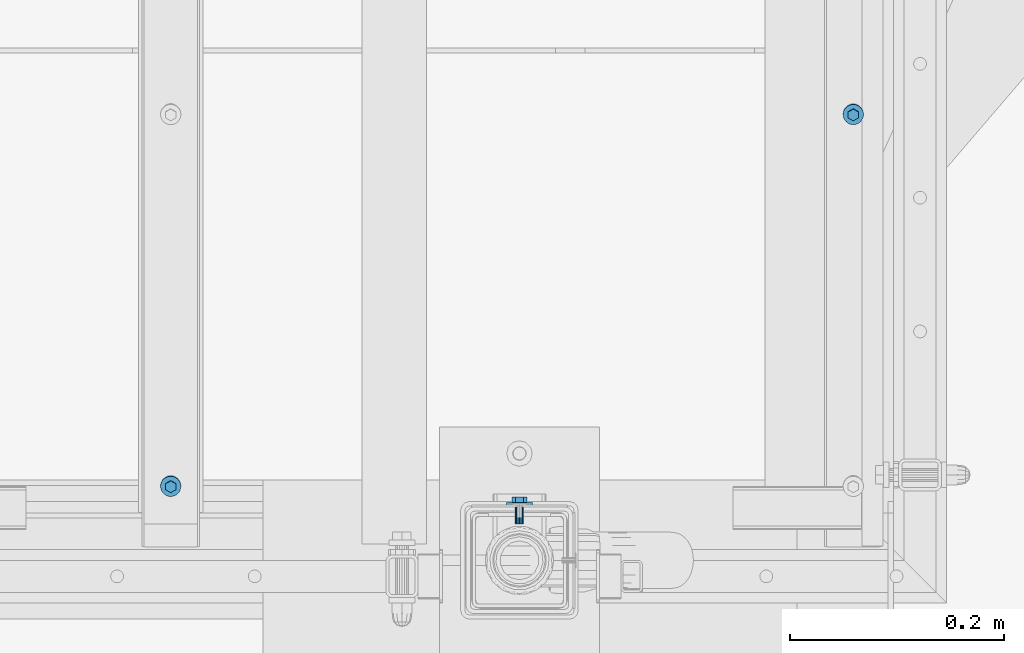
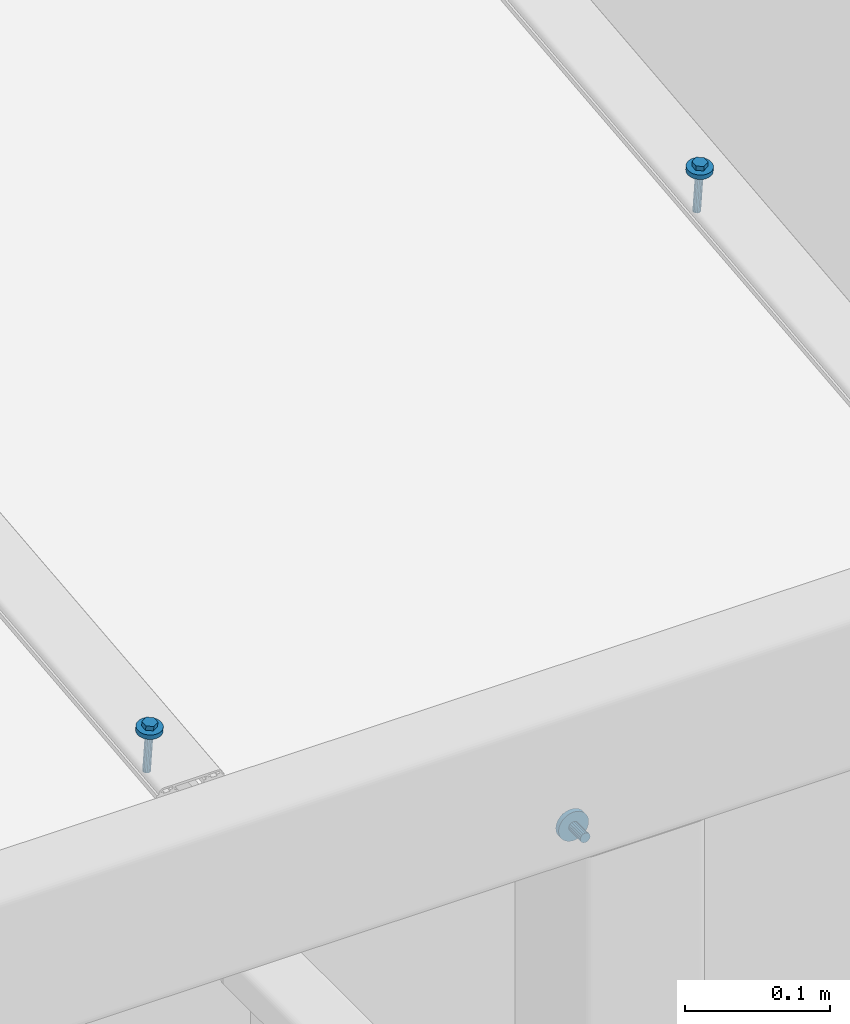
# One storey, part 72 of 162: 3 mechanical fasteners.
"""IFC2X3 building model written with IfcOpenShell, lengths in millimetres."""

from ifc_helpers import new_model, entity, si_unit, converted_unit, origin_with_axes, place, context, project, spatial, faceted_brep, element, save


model = new_model("IFC2X3")

# Units and contexts
model_context = context("Model", 3, precision=1e-09, world=origin_with_axes())
ifc_project = project(units=[si_unit("LENGTHUNIT", "METRE", prefix="MILLI"), si_unit("AREAUNIT", "SQUARE_METRE"), si_unit("VOLUMEUNIT", "CUBIC_METRE"), converted_unit("PLANEANGLEUNIT", "DEGREE", entity("IfcPlaneAngleMeasure", 0.01745329), si_unit("PLANEANGLEUNIT", "RADIAN"), dimensions=[0, 0, 0, 0, 0, 0, 0])], contexts=[model_context])

# Site, building, storey
site_placement = place(None, origin_with_axes())
site = spatial("IfcSite", under=ifc_project, at=site_placement, Name="Hermannstra?e 1a, 60318 Frankfurt", CompositionType="ELEMENT")
building_placement = place(site_placement, origin_with_axes())
building = spatial("IfcBuilding", under=site, at=building_placement, Name="Struktur 1", CompositionType="ELEMENT")
storey_placement = place(building_placement, origin_with_axes())
storey = spatial("IfcBuildingStorey", under=building, at=storey_placement, Name="Default Storey", CompositionType="ELEMENT", Elevation=0.0)

# Mechanical fasteners
mechanical_fastener_1_placement = place(None, origin_with_axes())
element("IfcMechanicalFastener", 1, at=mechanical_fastener_1_placement, inside=storey, ObjectType="-", NominalDiameter=6.0, NominalLength=40.0, context=model_context, shape_type="Brep", body=[
    faceted_brep([(5776.309364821, 1947.952940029, 17450.481034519), (5776.309364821, 1948.371053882, 17446.502946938), (5776.491904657, 1946.527848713, 17446.309218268), (5776.491904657, 1946.109734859, 17450.28730585), (5777.032509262, 1944.755476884, 17446.122934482), (5777.032509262, 1944.337363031, 17450.101022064), (5777.910403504, 1943.122049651, 17445.951254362), (5777.910403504, 1942.703935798, 17449.929341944), (5779.0918504, 1941.690338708, 17445.800775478), (5779.0918504, 1941.272224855, 17449.77886306), (5780.531447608, 1940.515363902, 17445.67728065), (5780.531447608, 1940.097250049, 17449.655368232), (5782.173872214, 1939.642278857, 17445.585515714), (5782.173872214, 1939.224165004, 17449.563603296), (5783.956006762, 1939.10463574, 17445.529007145), (5783.956006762, 1938.686521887, 17449.507094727), (5785.809364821, 1938.923095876, 17445.509926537), (5785.809364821, 1938.504982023, 17449.488014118), (5787.66272288, 1939.10463574, 17445.529007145), (5787.66272288, 1938.686521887, 17449.507094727), (5789.444857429, 1939.642278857, 17445.585515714), (5789.444857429, 1939.224165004, 17449.563603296), (5791.087282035, 1940.515363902, 17445.67728065), (5791.087282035, 1940.097250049, 17449.655368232), (5792.526879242, 1941.690338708, 17445.800775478), (5792.526879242, 1941.272224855, 17449.77886306), (5793.708326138, 1943.122049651, 17445.951254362), (5793.708326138, 1942.703935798, 17449.929341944), (5794.58622038, 1944.755476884, 17446.122934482), (5794.58622038, 1944.337363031, 17450.101022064), (5795.126824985, 1946.527848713, 17446.309218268), (5795.126824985, 1946.109734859, 17450.28730585), (5795.309364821, 1948.371053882, 17446.502946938), (5795.309364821, 1947.952940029, 17450.481034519), (5795.126824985, 1950.214259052, 17446.696675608), (5795.126824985, 1949.796145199, 17450.674763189), (5794.58622038, 1951.986630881, 17446.882959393), (5794.58622038, 1951.568517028, 17450.861046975), (5793.708326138, 1953.620058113, 17447.054639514), (5793.708326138, 1953.20194426, 17451.032727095), (5792.526879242, 1955.051769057, 17447.205118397), (5792.526879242, 1954.633655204, 17451.183205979), (5791.087282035, 1956.226743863, 17447.328613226), (5791.087282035, 1955.80863001, 17451.306700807), (5789.444857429, 1957.099828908, 17447.420378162), (5789.444857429, 1956.681715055, 17451.398465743), (5787.66272288, 1957.637472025, 17447.47688673), (5787.66272288, 1957.219358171, 17451.454974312), (5785.809364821, 1957.819011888, 17447.495967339), (5785.809364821, 1957.400898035, 17451.47405492), (5783.956006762, 1957.637472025, 17447.47688673), (5783.956006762, 1957.219358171, 17451.454974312), (5782.173872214, 1957.099828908, 17447.420378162), (5782.173872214, 1956.681715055, 17451.398465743), (5780.531447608, 1956.226743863, 17447.328613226), (5780.531447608, 1955.80863001, 17451.306700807), (5779.0918504, 1955.051769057, 17447.205118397), (5779.0918504, 1954.633655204, 17451.183205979), (5777.910403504, 1953.620058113, 17447.054639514), (5777.910403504, 1953.20194426, 17451.032727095), (5777.032509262, 1951.986630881, 17446.882959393), (5777.032509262, 1951.568517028, 17450.861046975), (5776.491904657, 1950.214259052, 17446.696675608), (5776.491904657, 1949.796145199, 17450.674763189)], [[[0, 1, 2, 3]], [[3, 2, 4, 5]], [[5, 4, 6, 7]], [[7, 6, 8, 9]], [[9, 8, 10, 11]], [[11, 10, 12, 13]], [[13, 12, 14, 15]], [[15, 14, 16, 17]], [[17, 16, 18, 19]], [[19, 18, 20, 21]], [[21, 20, 22, 23]], [[23, 22, 24, 25]], [[25, 24, 26, 27]], [[27, 26, 28, 29]], [[29, 28, 30, 31]], [[31, 30, 32, 33]], [[33, 32, 34, 35]], [[35, 34, 36, 37]], [[37, 36, 38, 39]], [[39, 38, 40, 41]], [[41, 40, 42, 43]], [[43, 42, 44, 45]], [[45, 44, 46, 47]], [[47, 46, 48, 49]], [[49, 48, 50, 51]], [[51, 50, 52, 53]], [[53, 52, 54, 55]], [[55, 54, 56, 57]], [[57, 56, 58, 59]], [[59, 58, 60, 61]], [[61, 60, 62, 63]], [[63, 62, 1, 0]], [[0, 3, 5, 7, 9, 11, 13, 15, 17, 19, 21, 23, 25, 27, 29, 31, 33, 35, 37, 39, 41, 43, 45, 47, 49, 51, 53, 55, 57, 59, 61, 63]], [[1, 62, 60, 58, 56, 54, 52, 50, 48, 46, 44, 42, 40, 38, 36, 34, 32, 30, 28, 26, 24, 22, 20, 18, 16, 14, 12, 10, 8, 6, 4, 2]]]),
    faceted_brep([(5790.594155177, 1945.205573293, 17450.19227464), (5790.594155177, 1944.78745944, 17454.170362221), (5785.809364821, 1942.040092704, 17453.881602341), (5785.809364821, 1942.458206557, 17449.90351476), (5781.024574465, 1944.78745944, 17454.170362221), (5781.024574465, 1945.205573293, 17450.19227464), (5781.024574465, 1950.282192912, 17454.747881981), (5781.024574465, 1950.700306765, 17450.769794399), (5785.809364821, 1953.029559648, 17455.03664186), (5785.809364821, 1953.447673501, 17451.058554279), (5790.594155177, 1950.282192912, 17454.747881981), (5790.594155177, 1950.700306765, 17450.769794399)], [[[0, 1, 2, 3]], [[3, 2, 4, 5]], [[5, 4, 6, 7]], [[7, 6, 8, 9]], [[9, 8, 10, 11]], [[11, 10, 1, 0]], [[4, 2, 1, 10, 8, 6]], [[0, 3, 5, 7, 9, 11]]]),
    faceted_brep([(5782.809364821, 1948.371053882, 17446.502946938), (5782.809364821, 1951.715964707, 17414.678246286), (5783.037726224, 1950.574203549, 17414.558242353), (5783.037726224, 1947.229292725, 17446.382943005), (5783.688044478, 1949.606265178, 17414.456507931), (5783.688044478, 1946.261354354, 17446.281208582), (5784.661314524, 1948.959509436, 17414.388531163), (5784.661314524, 1945.614598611, 17446.213231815), (5785.809364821, 1948.732399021, 17414.364660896), (5785.809364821, 1945.387488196, 17446.189361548), (5786.957415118, 1948.959509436, 17414.388531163), (5786.957415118, 1945.614598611, 17446.213231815), (5787.930685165, 1949.606265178, 17414.456507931), (5787.930685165, 1946.261354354, 17446.281208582), (5788.581003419, 1950.574203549, 17414.558242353), (5788.581003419, 1947.229292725, 17446.382943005), (5788.809364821, 1951.715964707, 17414.678246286), (5788.809364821, 1948.371053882, 17446.502946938), (5788.581003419, 1952.857725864, 17414.798250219), (5788.581003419, 1949.51281504, 17446.622950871), (5787.930685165, 1953.825664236, 17414.899984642), (5787.930685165, 1950.480753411, 17446.724685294), (5786.957415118, 1954.472419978, 17414.967961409), (5786.957415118, 1951.127509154, 17446.792662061), (5785.809364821, 1954.699530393, 17414.991831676), (5785.809364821, 1951.354619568, 17446.816532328), (5784.661314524, 1954.472419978, 17414.967961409), (5784.661314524, 1951.127509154, 17446.792662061), (5783.688044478, 1953.825664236, 17414.899984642), (5783.688044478, 1950.480753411, 17446.724685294), (5783.037726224, 1952.857725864, 17414.798250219), (5783.037726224, 1949.51281504, 17446.622950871)], [[[0, 1, 2, 3]], [[3, 2, 4, 5]], [[5, 4, 6, 7]], [[7, 6, 8, 9]], [[9, 8, 10, 11]], [[11, 10, 12, 13]], [[13, 12, 14, 15]], [[15, 14, 16, 17]], [[17, 16, 18, 19]], [[19, 18, 20, 21]], [[21, 20, 22, 23]], [[23, 22, 24, 25]], [[25, 24, 26, 27]], [[27, 26, 28, 29]], [[29, 28, 30, 31]], [[31, 30, 1, 0]], [[0, 3, 5, 7, 9, 11, 13, 15, 17, 19, 21, 23, 25, 27, 29, 31]], [[1, 30, 28, 26, 24, 22, 20, 18, 16, 14, 12, 10, 8, 6, 4, 2]]]),
    faceted_brep([(5782.809364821, 1951.715964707, 17414.678246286), (5782.809364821, 1952.13407856, 17410.700158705), (5783.037726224, 1950.992317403, 17410.580154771), (5783.037726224, 1950.574203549, 17414.558242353), (5783.688044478, 1950.024379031, 17410.478420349), (5783.688044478, 1949.606265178, 17414.456507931), (5784.661314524, 1949.377623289, 17410.410443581), (5784.661314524, 1948.959509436, 17414.388531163), (5785.809364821, 1949.150512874, 17410.386573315), (5785.809364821, 1948.732399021, 17414.364660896), (5786.957415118, 1949.377623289, 17410.410443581), (5786.957415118, 1948.959509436, 17414.388531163), (5787.930685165, 1950.024379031, 17410.478420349), (5787.930685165, 1949.606265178, 17414.456507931), (5788.581003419, 1950.992317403, 17410.580154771), (5788.581003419, 1950.574203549, 17414.558242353), (5788.809364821, 1952.13407856, 17410.700158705), (5788.809364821, 1951.715964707, 17414.678246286), (5788.581003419, 1953.275839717, 17410.820162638), (5788.581003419, 1952.857725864, 17414.798250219), (5787.930685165, 1954.243778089, 17410.92189706), (5787.930685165, 1953.825664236, 17414.899984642), (5786.957415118, 1954.890533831, 17410.989873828), (5786.957415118, 1954.472419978, 17414.967961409), (5785.809364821, 1955.117644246, 17411.013744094), (5785.809364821, 1954.699530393, 17414.991831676), (5784.661314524, 1954.890533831, 17410.989873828), (5784.661314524, 1954.472419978, 17414.967961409), (5783.688044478, 1954.243778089, 17410.92189706), (5783.688044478, 1953.825664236, 17414.899984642), (5783.037726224, 1953.275839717, 17410.820162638), (5783.037726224, 1952.857725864, 17414.798250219)], [[[0, 1, 2, 3]], [[3, 2, 4, 5]], [[5, 4, 6, 7]], [[7, 6, 8, 9]], [[9, 8, 10, 11]], [[11, 10, 12, 13]], [[13, 12, 14, 15]], [[15, 14, 16, 17]], [[17, 16, 18, 19]], [[19, 18, 20, 21]], [[21, 20, 22, 23]], [[23, 22, 24, 25]], [[25, 24, 26, 27]], [[27, 26, 28, 29]], [[29, 28, 30, 31]], [[31, 30, 1, 0]], [[0, 3, 5, 7, 9, 11, 13, 15, 17, 19, 21, 23, 25, 27, 29, 31]], [[1, 30, 28, 26, 24, 22, 20, 18, 16, 14, 12, 10, 8, 6, 4, 2]]]),
])
mechanical_fastener_2_placement = place(None, origin_with_axes())
element("IfcMechanicalFastener", 2, at=mechanical_fastener_2_placement, inside=storey, ObjectType="-", NominalDiameter=8.0, NominalLength=20.0, context=model_context, shape_type="Brep", body=[
    faceted_brep([(5473.30936482, 1582.609373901, 17215.0), (5473.30936482, 1580.609373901, 17215.0), (5470.968280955, 1580.609373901, 17215.230576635), (5470.968280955, 1582.609373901, 17215.230576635), (5468.717163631, 1580.609373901, 17215.91344561), (5468.717163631, 1582.609373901, 17215.91344561), (5466.642522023, 1580.609373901, 17217.022364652), (5466.642522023, 1582.609373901, 17217.022364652), (5464.824083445, 1580.609373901, 17218.514718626), (5464.824083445, 1582.609373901, 17218.514718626), (5463.331729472, 1580.609373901, 17220.333157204), (5463.331729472, 1582.609373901, 17220.333157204), (5462.222810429, 1580.609373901, 17222.407798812), (5462.222810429, 1582.609373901, 17222.407798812), (5461.539941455, 1580.609373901, 17224.658916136), (5461.539941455, 1582.609373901, 17224.658916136), (5461.30936482, 1580.609373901, 17227.0), (5461.30936482, 1582.609373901, 17227.0), (5461.539941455, 1580.609373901, 17229.341083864), (5461.539941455, 1582.609373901, 17229.341083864), (5462.222810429, 1580.609373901, 17231.592201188), (5462.222810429, 1582.609373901, 17231.592201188), (5463.331729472, 1580.609373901, 17233.666842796), (5463.331729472, 1582.609373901, 17233.666842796), (5464.824083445, 1580.609373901, 17235.485281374), (5464.824083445, 1582.609373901, 17235.485281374), (5466.642522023, 1580.609373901, 17236.977635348), (5466.642522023, 1582.609373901, 17236.977635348), (5468.717163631, 1580.609373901, 17238.08655439), (5468.717163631, 1582.609373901, 17238.08655439), (5470.968280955, 1580.609373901, 17238.769423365), (5470.968280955, 1582.609373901, 17238.769423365), (5473.30936482, 1580.609373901, 17239.0), (5473.30936482, 1582.609373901, 17239.0), (5475.650448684, 1580.609373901, 17238.769423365), (5475.650448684, 1582.609373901, 17238.769423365), (5477.901566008, 1580.609373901, 17238.08655439), (5477.901566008, 1582.609373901, 17238.08655439), (5479.976207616, 1580.609373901, 17236.977635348), (5479.976207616, 1582.609373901, 17236.977635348), (5481.794646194, 1580.609373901, 17235.485281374), (5481.794646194, 1582.609373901, 17235.485281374), (5483.287000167, 1580.609373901, 17233.666842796), (5483.287000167, 1582.609373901, 17233.666842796), (5484.39591921, 1580.609373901, 17231.592201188), (5484.39591921, 1582.609373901, 17231.592201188), (5485.078788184, 1580.609373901, 17229.341083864), (5485.078788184, 1582.609373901, 17229.341083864), (5485.30936482, 1580.609373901, 17227.0), (5485.30936482, 1582.609373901, 17227.0), (5485.078788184, 1580.609373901, 17224.658916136), (5485.078788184, 1582.609373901, 17224.658916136), (5484.39591921, 1580.609373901, 17222.407798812), (5484.39591921, 1582.609373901, 17222.407798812), (5483.287000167, 1580.609373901, 17220.333157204), (5483.287000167, 1582.609373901, 17220.333157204), (5481.794646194, 1580.609373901, 17218.514718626), (5481.794646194, 1582.609373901, 17218.514718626), (5479.976207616, 1580.609373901, 17217.022364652), (5479.976207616, 1582.609373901, 17217.022364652), (5477.901566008, 1580.609373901, 17215.91344561), (5477.901566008, 1582.609373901, 17215.91344561), (5475.650448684, 1580.609373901, 17215.230576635), (5475.650448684, 1582.609373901, 17215.230576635)], [[[0, 1, 2, 3]], [[3, 2, 4, 5]], [[5, 4, 6, 7]], [[7, 6, 8, 9]], [[9, 8, 10, 11]], [[11, 10, 12, 13]], [[13, 12, 14, 15]], [[15, 14, 16, 17]], [[17, 16, 18, 19]], [[19, 18, 20, 21]], [[21, 20, 22, 23]], [[23, 22, 24, 25]], [[25, 24, 26, 27]], [[27, 26, 28, 29]], [[29, 28, 30, 31]], [[31, 30, 32, 33]], [[33, 32, 34, 35]], [[35, 34, 36, 37]], [[37, 36, 38, 39]], [[39, 38, 40, 41]], [[41, 40, 42, 43]], [[43, 42, 44, 45]], [[45, 44, 46, 47]], [[47, 46, 48, 49]], [[49, 48, 50, 51]], [[51, 50, 52, 53]], [[53, 52, 54, 55]], [[55, 54, 56, 57]], [[57, 56, 58, 59]], [[59, 58, 60, 61]], [[61, 60, 62, 63]], [[63, 62, 1, 0]], [[0, 3, 5, 7, 9, 11, 13, 15, 17, 19, 21, 23, 25, 27, 29, 31, 33, 35, 37, 39, 41, 43, 45, 47, 49, 51, 53, 55, 57, 59, 61, 63]], [[1, 62, 60, 58, 56, 54, 52, 50, 48, 46, 44, 42, 40, 38, 36, 34, 32, 30, 28, 26, 24, 22, 20, 18, 16, 14, 12, 10, 8, 6, 4, 2]]]),
    faceted_brep([(5473.30936482, 1584.609373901, 17215.0), (5473.30936482, 1582.609373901, 17215.0), (5470.968280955, 1582.609373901, 17215.230576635), (5470.968280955, 1584.609373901, 17215.230576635), (5468.717163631, 1582.609373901, 17215.91344561), (5468.717163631, 1584.609373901, 17215.91344561), (5466.642522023, 1582.609373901, 17217.022364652), (5466.642522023, 1584.609373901, 17217.022364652), (5464.824083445, 1582.609373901, 17218.514718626), (5464.824083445, 1584.609373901, 17218.514718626), (5463.331729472, 1582.609373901, 17220.333157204), (5463.331729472, 1584.609373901, 17220.333157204), (5462.222810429, 1582.609373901, 17222.407798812), (5462.222810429, 1584.609373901, 17222.407798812), (5461.539941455, 1582.609373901, 17224.658916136), (5461.539941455, 1584.609373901, 17224.658916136), (5461.30936482, 1582.609373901, 17227.0), (5461.30936482, 1584.609373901, 17227.0), (5461.539941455, 1582.609373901, 17229.341083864), (5461.539941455, 1584.609373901, 17229.341083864), (5462.222810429, 1582.609373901, 17231.592201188), (5462.222810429, 1584.609373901, 17231.592201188), (5463.331729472, 1582.609373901, 17233.666842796), (5463.331729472, 1584.609373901, 17233.666842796), (5464.824083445, 1582.609373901, 17235.485281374), (5464.824083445, 1584.609373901, 17235.485281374), (5466.642522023, 1582.609373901, 17236.977635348), (5466.642522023, 1584.609373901, 17236.977635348), (5468.717163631, 1582.609373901, 17238.08655439), (5468.717163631, 1584.609373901, 17238.08655439), (5470.968280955, 1582.609373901, 17238.769423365), (5470.968280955, 1584.609373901, 17238.769423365), (5473.30936482, 1582.609373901, 17239.0), (5473.30936482, 1584.609373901, 17239.0), (5475.650448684, 1582.609373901, 17238.769423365), (5475.650448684, 1584.609373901, 17238.769423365), (5477.901566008, 1582.609373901, 17238.08655439), (5477.901566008, 1584.609373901, 17238.08655439), (5479.976207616, 1582.609373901, 17236.977635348), (5479.976207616, 1584.609373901, 17236.977635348), (5481.794646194, 1582.609373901, 17235.485281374), (5481.794646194, 1584.609373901, 17235.485281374), (5483.287000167, 1582.609373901, 17233.666842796), (5483.287000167, 1584.609373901, 17233.666842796), (5484.39591921, 1582.609373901, 17231.592201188), (5484.39591921, 1584.609373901, 17231.592201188), (5485.078788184, 1582.609373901, 17229.341083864), (5485.078788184, 1584.609373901, 17229.341083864), (5485.30936482, 1582.609373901, 17227.0), (5485.30936482, 1584.609373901, 17227.0), (5485.078788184, 1582.609373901, 17224.658916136), (5485.078788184, 1584.609373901, 17224.658916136), (5484.39591921, 1582.609373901, 17222.407798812), (5484.39591921, 1584.609373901, 17222.407798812), (5483.287000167, 1582.609373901, 17220.333157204), (5483.287000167, 1584.609373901, 17220.333157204), (5481.794646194, 1582.609373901, 17218.514718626), (5481.794646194, 1584.609373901, 17218.514718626), (5479.976207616, 1582.609373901, 17217.022364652), (5479.976207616, 1584.609373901, 17217.022364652), (5477.901566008, 1582.609373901, 17215.91344561), (5477.901566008, 1584.609373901, 17215.91344561), (5475.650448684, 1582.609373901, 17215.230576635), (5475.650448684, 1584.609373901, 17215.230576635)], [[[0, 1, 2, 3]], [[3, 2, 4, 5]], [[5, 4, 6, 7]], [[7, 6, 8, 9]], [[9, 8, 10, 11]], [[11, 10, 12, 13]], [[13, 12, 14, 15]], [[15, 14, 16, 17]], [[17, 16, 18, 19]], [[19, 18, 20, 21]], [[21, 20, 22, 23]], [[23, 22, 24, 25]], [[25, 24, 26, 27]], [[27, 26, 28, 29]], [[29, 28, 30, 31]], [[31, 30, 32, 33]], [[33, 32, 34, 35]], [[35, 34, 36, 37]], [[37, 36, 38, 39]], [[39, 38, 40, 41]], [[41, 40, 42, 43]], [[43, 42, 44, 45]], [[45, 44, 46, 47]], [[47, 46, 48, 49]], [[49, 48, 50, 51]], [[51, 50, 52, 53]], [[53, 52, 54, 55]], [[55, 54, 56, 57]], [[57, 56, 58, 59]], [[59, 58, 60, 61]], [[61, 60, 62, 63]], [[63, 62, 1, 0]], [[0, 3, 5, 7, 9, 11, 13, 15, 17, 19, 21, 23, 25, 27, 29, 31, 33, 35, 37, 39, 41, 43, 45, 47, 49, 51, 53, 55, 57, 59, 61, 63]], [[1, 62, 60, 58, 56, 54, 52, 50, 48, 46, 44, 42, 40, 38, 36, 34, 32, 30, 28, 26, 24, 22, 20, 18, 16, 14, 12, 10, 8, 6, 4, 2]]]),
    faceted_brep([(5469.71436482, 1584.609373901, 17233.226722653), (5469.71436482, 1589.909373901, 17233.226722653), (5466.11936482, 1589.909373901, 17227.0), (5466.11936482, 1584.609373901, 17227.0), (5469.71436482, 1589.909373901, 17220.773277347), (5469.71436482, 1584.609373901, 17220.773277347), (5476.90436482, 1589.909373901, 17220.773277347), (5476.90436482, 1584.609373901, 17220.773277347), (5480.49936482, 1589.909373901, 17227.0), (5480.49936482, 1584.609373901, 17227.0), (5476.90436482, 1589.909373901, 17233.226722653), (5476.90436482, 1584.609373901, 17233.226722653)], [[[0, 1, 2, 3]], [[3, 2, 4, 5]], [[5, 4, 6, 7]], [[7, 6, 8, 9]], [[9, 8, 10, 11]], [[11, 10, 1, 0]], [[4, 2, 1, 10, 8, 6]], [[0, 3, 5, 7, 9, 11]]]),
    faceted_brep([(5473.30936482, 1580.609373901, 17223.0), (5473.30936482, 1572.609373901, 17223.0), (5471.77863109, 1572.609373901, 17223.30448187), (5471.77863109, 1580.609373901, 17223.30448187), (5470.480937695, 1572.609373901, 17224.171572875), (5470.480937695, 1580.609373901, 17224.171572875), (5469.61384669, 1572.609373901, 17225.469266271), (5469.61384669, 1580.609373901, 17225.469266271), (5469.30936482, 1572.609373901, 17227.0), (5469.30936482, 1580.609373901, 17227.0), (5469.61384669, 1572.609373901, 17228.530733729), (5469.61384669, 1580.609373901, 17228.530733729), (5470.480937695, 1572.609373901, 17229.828427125), (5470.480937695, 1580.609373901, 17229.828427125), (5471.77863109, 1572.609373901, 17230.69551813), (5471.77863109, 1580.609373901, 17230.69551813), (5473.30936482, 1572.609373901, 17231.0), (5473.30936482, 1580.609373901, 17231.0), (5474.840098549, 1572.609373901, 17230.69551813), (5474.840098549, 1580.609373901, 17230.69551813), (5476.137791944, 1572.609373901, 17229.828427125), (5476.137791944, 1580.609373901, 17229.828427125), (5477.00488295, 1572.609373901, 17228.530733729), (5477.00488295, 1580.609373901, 17228.530733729), (5477.30936482, 1572.609373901, 17227.0), (5477.30936482, 1580.609373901, 17227.0), (5477.00488295, 1572.609373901, 17225.469266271), (5477.00488295, 1580.609373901, 17225.469266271), (5476.137791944, 1572.609373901, 17224.171572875), (5476.137791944, 1580.609373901, 17224.171572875), (5474.840098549, 1572.609373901, 17223.30448187), (5474.840098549, 1580.609373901, 17223.30448187)], [[[0, 1, 2, 3]], [[3, 2, 4, 5]], [[5, 4, 6, 7]], [[7, 6, 8, 9]], [[9, 8, 10, 11]], [[11, 10, 12, 13]], [[13, 12, 14, 15]], [[15, 14, 16, 17]], [[17, 16, 18, 19]], [[19, 18, 20, 21]], [[21, 20, 22, 23]], [[23, 22, 24, 25]], [[25, 24, 26, 27]], [[27, 26, 28, 29]], [[29, 28, 30, 31]], [[31, 30, 1, 0]], [[0, 3, 5, 7, 9, 11, 13, 15, 17, 19, 21, 23, 25, 27, 29, 31]], [[1, 30, 28, 26, 24, 22, 20, 18, 16, 14, 12, 10, 8, 6, 4, 2]]]),
    faceted_brep([(5473.30936482, 1572.609373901, 17223.0), (5473.30936482, 1564.609373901, 17223.0), (5471.77863109, 1564.609373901, 17223.30448187), (5471.77863109, 1572.609373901, 17223.30448187), (5470.480937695, 1564.609373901, 17224.171572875), (5470.480937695, 1572.609373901, 17224.171572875), (5469.61384669, 1564.609373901, 17225.469266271), (5469.61384669, 1572.609373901, 17225.469266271), (5469.30936482, 1564.609373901, 17227.0), (5469.30936482, 1572.609373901, 17227.0), (5469.61384669, 1564.609373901, 17228.530733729), (5469.61384669, 1572.609373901, 17228.530733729), (5470.480937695, 1564.609373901, 17229.828427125), (5470.480937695, 1572.609373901, 17229.828427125), (5471.77863109, 1564.609373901, 17230.69551813), (5471.77863109, 1572.609373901, 17230.69551813), (5473.30936482, 1564.609373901, 17231.0), (5473.30936482, 1572.609373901, 17231.0), (5474.840098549, 1564.609373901, 17230.69551813), (5474.840098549, 1572.609373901, 17230.69551813), (5476.137791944, 1564.609373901, 17229.828427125), (5476.137791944, 1572.609373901, 17229.828427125), (5477.00488295, 1564.609373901, 17228.530733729), (5477.00488295, 1572.609373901, 17228.530733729), (5477.30936482, 1564.609373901, 17227.0), (5477.30936482, 1572.609373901, 17227.0), (5477.00488295, 1564.609373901, 17225.469266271), (5477.00488295, 1572.609373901, 17225.469266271), (5476.137791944, 1564.609373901, 17224.171572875), (5476.137791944, 1572.609373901, 17224.171572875), (5474.840098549, 1564.609373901, 17223.30448187), (5474.840098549, 1572.609373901, 17223.30448187)], [[[0, 1, 2, 3]], [[3, 2, 4, 5]], [[5, 4, 6, 7]], [[7, 6, 8, 9]], [[9, 8, 10, 11]], [[11, 10, 12, 13]], [[13, 12, 14, 15]], [[15, 14, 16, 17]], [[17, 16, 18, 19]], [[19, 18, 20, 21]], [[21, 20, 22, 23]], [[23, 22, 24, 25]], [[25, 24, 26, 27]], [[27, 26, 28, 29]], [[29, 28, 30, 31]], [[31, 30, 1, 0]], [[0, 3, 5, 7, 9, 11, 13, 15, 17, 19, 21, 23, 25, 27, 29, 31]], [[1, 30, 28, 26, 24, 22, 20, 18, 16, 14, 12, 10, 8, 6, 4, 2]]]),
])
mechanical_fastener_3_placement = place(None, origin_with_axes())
element("IfcMechanicalFastener", 3, at=mechanical_fastener_3_placement, inside=storey, ObjectType="-", NominalDiameter=6.0, NominalLength=40.0, context=model_context, shape_type="Brep", body=[
    faceted_brep([(5137.309364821, 1599.87027665, 17413.896072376), (5137.309364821, 1600.288390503, 17409.917984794), (5137.491904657, 1598.445185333, 17409.724256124), (5137.491904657, 1598.02707148, 17413.702343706), (5138.032509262, 1596.672813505, 17409.537972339), (5138.032509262, 1596.254699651, 17413.51605992), (5138.910403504, 1595.039386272, 17409.366292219), (5138.910403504, 1594.621272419, 17413.3443798), (5140.0918504, 1593.607675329, 17409.215813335), (5140.0918504, 1593.189561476, 17413.193900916), (5141.531447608, 1592.432700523, 17409.092318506), (5141.531447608, 1592.01458667, 17413.070406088), (5143.173872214, 1591.559615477, 17409.00055357), (5143.173872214, 1591.141501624, 17412.978641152), (5144.956006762, 1591.021972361, 17408.944045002), (5144.956006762, 1590.603858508, 17412.922132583), (5146.809364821, 1590.840432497, 17408.924964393), (5146.809364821, 1590.422318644, 17412.903051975), (5148.66272288, 1591.021972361, 17408.944045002), (5148.66272288, 1590.603858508, 17412.922132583), (5150.444857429, 1591.559615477, 17409.00055357), (5150.444857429, 1591.141501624, 17412.978641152), (5152.087282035, 1592.432700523, 17409.092318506), (5152.087282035, 1592.01458667, 17413.070406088), (5153.526879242, 1593.607675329, 17409.215813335), (5153.526879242, 1593.189561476, 17413.193900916), (5154.708326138, 1595.039386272, 17409.366292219), (5154.708326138, 1594.621272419, 17413.3443798), (5155.58622038, 1596.672813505, 17409.537972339), (5155.58622038, 1596.254699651, 17413.51605992), (5156.126824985, 1598.445185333, 17409.724256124), (5156.126824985, 1598.02707148, 17413.702343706), (5156.309364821, 1600.288390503, 17409.917984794), (5156.309364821, 1599.87027665, 17413.896072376), (5156.126824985, 1602.131595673, 17410.111713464), (5156.126824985, 1601.71348182, 17414.089801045), (5155.58622038, 1603.903967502, 17410.29799725), (5155.58622038, 1603.485853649, 17414.276084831), (5154.708326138, 1605.537394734, 17410.46967737), (5154.708326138, 1605.119280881, 17414.447764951), (5153.526879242, 1606.969105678, 17410.620156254), (5153.526879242, 1606.550991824, 17414.598243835), (5152.087282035, 1608.144080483, 17410.743651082), (5152.087282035, 1607.72596663, 17414.721738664), (5150.444857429, 1609.017165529, 17410.835416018), (5150.444857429, 1608.599051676, 17414.8135036), (5148.66272288, 1609.554808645, 17410.891924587), (5148.66272288, 1609.136694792, 17414.870012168), (5146.809364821, 1609.736348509, 17410.911005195), (5146.809364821, 1609.318234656, 17414.889092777), (5144.956006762, 1609.554808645, 17410.891924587), (5144.956006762, 1609.136694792, 17414.870012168), (5143.173872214, 1609.017165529, 17410.835416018), (5143.173872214, 1608.599051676, 17414.8135036), (5141.531447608, 1608.144080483, 17410.743651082), (5141.531447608, 1607.72596663, 17414.721738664), (5140.0918504, 1606.969105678, 17410.620156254), (5140.0918504, 1606.550991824, 17414.598243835), (5138.910403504, 1605.537394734, 17410.46967737), (5138.910403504, 1605.119280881, 17414.447764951), (5138.032509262, 1603.903967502, 17410.29799725), (5138.032509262, 1603.485853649, 17414.276084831), (5137.491904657, 1602.131595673, 17410.111713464), (5137.491904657, 1601.71348182, 17414.089801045)], [[[0, 1, 2, 3]], [[3, 2, 4, 5]], [[5, 4, 6, 7]], [[7, 6, 8, 9]], [[9, 8, 10, 11]], [[11, 10, 12, 13]], [[13, 12, 14, 15]], [[15, 14, 16, 17]], [[17, 16, 18, 19]], [[19, 18, 20, 21]], [[21, 20, 22, 23]], [[23, 22, 24, 25]], [[25, 24, 26, 27]], [[27, 26, 28, 29]], [[29, 28, 30, 31]], [[31, 30, 32, 33]], [[33, 32, 34, 35]], [[35, 34, 36, 37]], [[37, 36, 38, 39]], [[39, 38, 40, 41]], [[41, 40, 42, 43]], [[43, 42, 44, 45]], [[45, 44, 46, 47]], [[47, 46, 48, 49]], [[49, 48, 50, 51]], [[51, 50, 52, 53]], [[53, 52, 54, 55]], [[55, 54, 56, 57]], [[57, 56, 58, 59]], [[59, 58, 60, 61]], [[61, 60, 62, 63]], [[63, 62, 1, 0]], [[0, 3, 5, 7, 9, 11, 13, 15, 17, 19, 21, 23, 25, 27, 29, 31, 33, 35, 37, 39, 41, 43, 45, 47, 49, 51, 53, 55, 57, 59, 61, 63]], [[1, 62, 60, 58, 56, 54, 52, 50, 48, 46, 44, 42, 40, 38, 36, 34, 32, 30, 28, 26, 24, 22, 20, 18, 16, 14, 12, 10, 8, 6, 4, 2]]]),
    faceted_brep([(5151.594155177, 1597.122909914, 17413.607312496), (5151.594155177, 1596.704796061, 17417.585400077), (5146.809364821, 1593.957429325, 17417.296640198), (5146.809364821, 1594.375543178, 17413.318552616), (5142.024574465, 1596.704796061, 17417.585400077), (5142.024574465, 1597.122909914, 17413.607312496), (5142.024574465, 1602.199529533, 17418.162919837), (5142.024574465, 1602.617643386, 17414.184832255), (5146.809364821, 1604.946896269, 17418.451679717), (5146.809364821, 1605.365010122, 17414.473592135), (5151.594155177, 1602.199529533, 17418.162919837), (5151.594155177, 1602.617643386, 17414.184832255)], [[[0, 1, 2, 3]], [[3, 2, 4, 5]], [[5, 4, 6, 7]], [[7, 6, 8, 9]], [[9, 8, 10, 11]], [[11, 10, 1, 0]], [[4, 2, 1, 10, 8, 6]], [[0, 3, 5, 7, 9, 11]]]),
    faceted_brep([(5143.809364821, 1600.288390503, 17409.917984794), (5143.809364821, 1603.633301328, 17378.093284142), (5144.037726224, 1602.49154017, 17377.973280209), (5144.037726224, 1599.146629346, 17409.797980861), (5144.688044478, 1601.523601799, 17377.871545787), (5144.688044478, 1598.178690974, 17409.696246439), (5145.661314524, 1600.876846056, 17377.803569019), (5145.661314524, 1597.531935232, 17409.628269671), (5146.809364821, 1600.649735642, 17377.779698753), (5146.809364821, 1597.304824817, 17409.604399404), (5147.957415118, 1600.876846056, 17377.803569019), (5147.957415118, 1597.531935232, 17409.628269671), (5148.930685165, 1601.523601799, 17377.871545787), (5148.930685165, 1598.178690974, 17409.696246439), (5149.581003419, 1602.49154017, 17377.973280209), (5149.581003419, 1599.146629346, 17409.797980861), (5149.809364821, 1603.633301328, 17378.093284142), (5149.809364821, 1600.288390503, 17409.917984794), (5149.581003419, 1604.775062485, 17378.213288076), (5149.581003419, 1601.430151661, 17410.037988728), (5148.930685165, 1605.743000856, 17378.315022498), (5148.930685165, 1602.398090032, 17410.13972315), (5147.957415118, 1606.389756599, 17378.382999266), (5147.957415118, 1603.044845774, 17410.207699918), (5146.809364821, 1606.616867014, 17378.406869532), (5146.809364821, 1603.271956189, 17410.231570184), (5145.661314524, 1606.389756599, 17378.382999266), (5145.661314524, 1603.044845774, 17410.207699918), (5144.688044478, 1605.743000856, 17378.315022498), (5144.688044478, 1602.398090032, 17410.13972315), (5144.037726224, 1604.775062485, 17378.213288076), (5144.037726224, 1601.430151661, 17410.037988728)], [[[0, 1, 2, 3]], [[3, 2, 4, 5]], [[5, 4, 6, 7]], [[7, 6, 8, 9]], [[9, 8, 10, 11]], [[11, 10, 12, 13]], [[13, 12, 14, 15]], [[15, 14, 16, 17]], [[17, 16, 18, 19]], [[19, 18, 20, 21]], [[21, 20, 22, 23]], [[23, 22, 24, 25]], [[25, 24, 26, 27]], [[27, 26, 28, 29]], [[29, 28, 30, 31]], [[31, 30, 1, 0]], [[0, 3, 5, 7, 9, 11, 13, 15, 17, 19, 21, 23, 25, 27, 29, 31]], [[1, 30, 28, 26, 24, 22, 20, 18, 16, 14, 12, 10, 8, 6, 4, 2]]]),
    faceted_brep([(5143.809364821, 1603.633301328, 17378.093284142), (5143.809364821, 1604.051415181, 17374.115196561), (5144.037726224, 1602.909654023, 17373.995192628), (5144.037726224, 1602.49154017, 17377.973280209), (5144.688044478, 1601.941715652, 17373.893458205), (5144.688044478, 1601.523601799, 17377.871545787), (5145.661314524, 1601.294959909, 17373.825481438), (5145.661314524, 1600.876846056, 17377.803569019), (5146.809364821, 1601.067849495, 17373.801611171), (5146.809364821, 1600.649735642, 17377.779698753), (5147.957415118, 1601.294959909, 17373.825481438), (5147.957415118, 1600.876846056, 17377.803569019), (5148.930685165, 1601.941715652, 17373.893458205), (5148.930685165, 1601.523601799, 17377.871545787), (5149.581003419, 1602.909654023, 17373.995192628), (5149.581003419, 1602.49154017, 17377.973280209), (5149.809364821, 1604.051415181, 17374.115196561), (5149.809364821, 1603.633301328, 17378.093284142), (5149.581003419, 1605.193176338, 17374.235200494), (5149.581003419, 1604.775062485, 17378.213288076), (5148.930685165, 1606.161114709, 17374.336934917), (5148.930685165, 1605.743000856, 17378.315022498), (5147.957415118, 1606.807870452, 17374.404911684), (5147.957415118, 1606.389756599, 17378.382999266), (5146.809364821, 1607.034980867, 17374.428781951), (5146.809364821, 1606.616867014, 17378.406869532), (5145.661314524, 1606.807870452, 17374.404911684), (5145.661314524, 1606.389756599, 17378.382999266), (5144.688044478, 1606.161114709, 17374.336934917), (5144.688044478, 1605.743000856, 17378.315022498), (5144.037726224, 1605.193176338, 17374.235200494), (5144.037726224, 1604.775062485, 17378.213288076)], [[[0, 1, 2, 3]], [[3, 2, 4, 5]], [[5, 4, 6, 7]], [[7, 6, 8, 9]], [[9, 8, 10, 11]], [[11, 10, 12, 13]], [[13, 12, 14, 15]], [[15, 14, 16, 17]], [[17, 16, 18, 19]], [[19, 18, 20, 21]], [[21, 20, 22, 23]], [[23, 22, 24, 25]], [[25, 24, 26, 27]], [[27, 26, 28, 29]], [[29, 28, 30, 31]], [[31, 30, 1, 0]], [[0, 3, 5, 7, 9, 11, 13, 15, 17, 19, 21, 23, 25, 27, 29, 31]], [[1, 30, 28, 26, 24, 22, 20, 18, 16, 14, 12, 10, 8, 6, 4, 2]]]),
])

save(model, "model.ifc")
